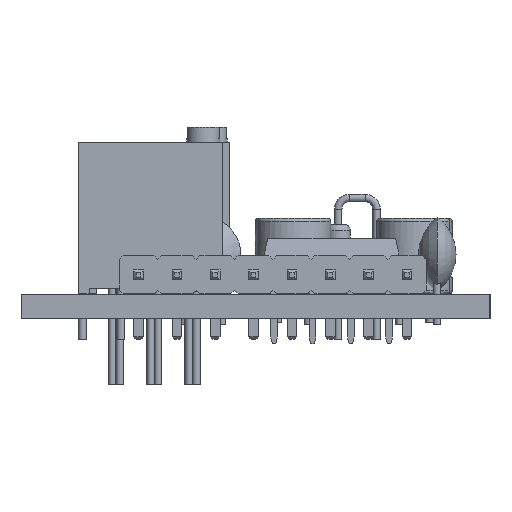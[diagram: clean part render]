
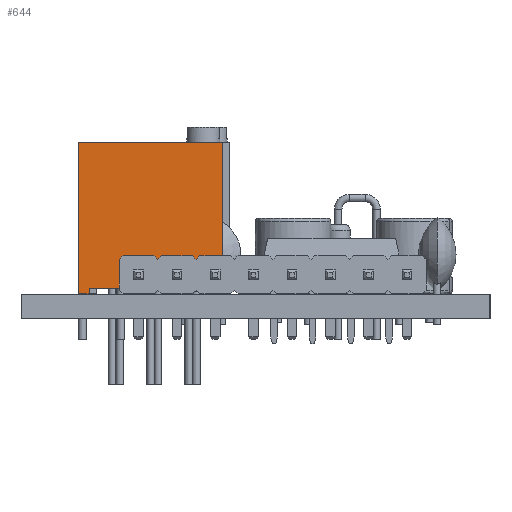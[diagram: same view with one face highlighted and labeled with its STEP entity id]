
A CAD part, left-side view. The second image highlights one B-rep face of the part: STEP entity #644.
In plain terms, the highlighted planar face has unit normal (-1, 0, 0) as drawn and (0, -1, 0) by its records, which use the part's own axes.
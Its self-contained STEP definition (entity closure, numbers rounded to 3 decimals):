
#206 = EDGE_CURVE('',#207,#209,#211,.T.);
#207 = VERTEX_POINT('',#208);
#208 = CARTESIAN_POINT('',(-7.305,-2.42,10.03));
#209 = VERTEX_POINT('',#210);
#210 = CARTESIAN_POINT('',(2.225,-2.42,10.03));
#211 = LINE('',#212,#213);
#212 = CARTESIAN_POINT('',(-7.305,-2.42,10.03));
#213 = VECTOR('',#214,1.);
#214 = DIRECTION('',(1.,0.,0.));
#337 = EDGE_CURVE('',#209,#338,#340,.T.);
#338 = VERTEX_POINT('',#339);
#339 = CARTESIAN_POINT('',(2.225,-2.42,0.));
#340 = LINE('',#341,#342);
#341 = CARTESIAN_POINT('',(2.225,-2.42,1.));
#342 = VECTOR('',#343,1.);
#343 = DIRECTION('',(0.,0.,-1.));
#402 = VERTEX_POINT('',#403);
#403 = CARTESIAN_POINT('',(1.525,-2.42,0.));
#418 = VERTEX_POINT('',#419);
#419 = CARTESIAN_POINT('',(1.525,-2.42,0.38));
#425 = EDGE_CURVE('',#418,#402,#426,.T.);
#426 = LINE('',#427,#428);
#427 = CARTESIAN_POINT('',(1.525,-2.42,1.));
#428 = VECTOR('',#429,1.);
#429 = DIRECTION('',(0.,0.,-1.));
#439 = EDGE_CURVE('',#440,#418,#442,.T.);
#440 = VERTEX_POINT('',#441);
#441 = CARTESIAN_POINT('',(-6.605,-2.42,0.38));
#442 = LINE('',#443,#444);
#443 = CARTESIAN_POINT('',(-7.305,-2.42,0.38));
#444 = VECTOR('',#445,1.);
#445 = DIRECTION('',(1.,0.,0.));
#499 = VERTEX_POINT('',#500);
#500 = CARTESIAN_POINT('',(-6.605,-2.42,0.));
#522 = EDGE_CURVE('',#440,#499,#523,.T.);
#523 = LINE('',#524,#525);
#524 = CARTESIAN_POINT('',(-6.605,-2.42,1.));
#525 = VECTOR('',#526,1.);
#526 = DIRECTION('',(0.,0.,-1.));
#586 = VERTEX_POINT('',#587);
#587 = CARTESIAN_POINT('',(-7.305,-2.42,0.));
#593 = EDGE_CURVE('',#207,#586,#594,.T.);
#594 = LINE('',#595,#596);
#595 = CARTESIAN_POINT('',(-7.305,-2.42,1.));
#596 = VECTOR('',#597,1.);
#597 = DIRECTION('',(0.,0.,-1.));
#644 = ADVANCED_FACE('',(#645),#665,.T.);
#645 = FACE_BOUND('',#646,.T.);
#646 = EDGE_LOOP('',(#647,#648,#649,#655,#656,#657,#658,#664));
#647 = ORIENTED_EDGE('',*,*,#206,.F.);
#648 = ORIENTED_EDGE('',*,*,#593,.T.);
#649 = ORIENTED_EDGE('',*,*,#650,.T.);
#650 = EDGE_CURVE('',#586,#499,#651,.T.);
#651 = LINE('',#652,#653);
#652 = CARTESIAN_POINT('',(-7.305,-2.42,0.));
#653 = VECTOR('',#654,1.);
#654 = DIRECTION('',(1.,0.,0.));
#655 = ORIENTED_EDGE('',*,*,#522,.F.);
#656 = ORIENTED_EDGE('',*,*,#439,.T.);
#657 = ORIENTED_EDGE('',*,*,#425,.T.);
#658 = ORIENTED_EDGE('',*,*,#659,.T.);
#659 = EDGE_CURVE('',#402,#338,#660,.T.);
#660 = LINE('',#661,#662);
#661 = CARTESIAN_POINT('',(1.525,-2.42,0.));
#662 = VECTOR('',#663,1.);
#663 = DIRECTION('',(1.,0.,0.));
#664 = ORIENTED_EDGE('',*,*,#337,.F.);
#665 = PLANE('',#666);
#666 = AXIS2_PLACEMENT_3D('',#667,#668,#669);
#667 = CARTESIAN_POINT('',(-2.54,-2.42,5.001));
#668 = DIRECTION('',(0.,-1.,0.));
#669 = DIRECTION('',(1.,0.,0.));
